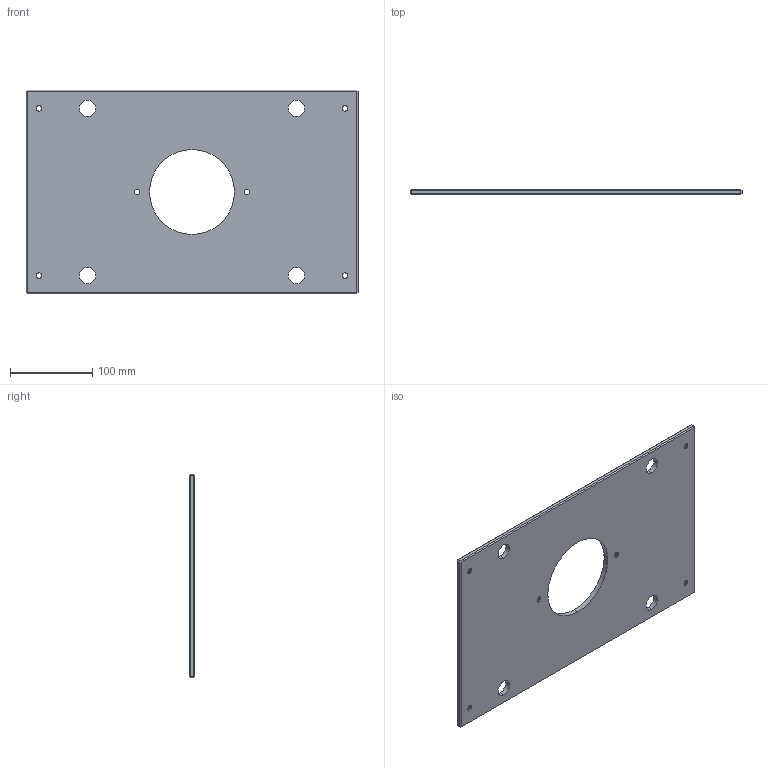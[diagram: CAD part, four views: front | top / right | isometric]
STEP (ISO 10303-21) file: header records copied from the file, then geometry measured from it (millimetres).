
FILE_DESCRIPTION (( 'STEP AP214' ), '1' );
FILE_NAME ('ME-0619-CH-1016.STEP', '2020-02-10T12:20:13', ( '' ), ( '' ), 'SwSTEP 2.0', 'SolidWorks 2018', '' );
FILE_SCHEMA (( 'AUTOMOTIVE_DESIGN' ));
Length unit declared in the file: inch
Products named in the file (1): ME-0619-CH-1016
Bounding box: 403.23 x 6.35 x 247.65 mm (x, y, z)
Volume: 568315.3 mm3; surface area: 190703 mm2
Topology: 1 solids, 1 shells, 60 faces, 138 edges, 80 vertices
Faces by surface type: plane 26, cylinder 22, cone 12
Entity records: 1754 total; most frequent: DIRECTION 316, CARTESIAN_POINT 279, ORIENTED_EDGE 276, EDGE_CURVE 138, AXIS2_PLACEMENT_3D 117, EDGE_LOOP 82, VECTOR 82, LINE 82
